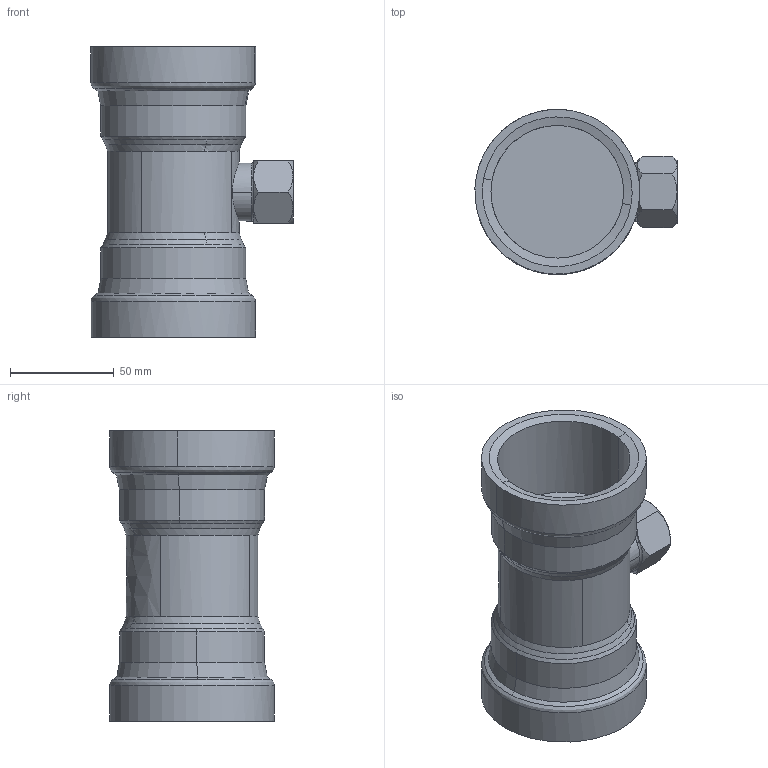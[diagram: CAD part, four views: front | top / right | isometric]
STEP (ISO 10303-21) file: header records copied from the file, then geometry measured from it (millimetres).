
FILE_DESCRIPTION(('STEP AP214'),'1');
FILE_NAME('pim0004510.stp','2015-04-30T06:15:16',('Cad-Pim'),('TransMagic, Inc.'),'TMR11sp0','TransMagic R11',' ');
FILE_SCHEMA(('AUTOMOTIVE_DESIGN'));
Length unit declared in the file: millimetre
Products named in the file (1): pim0004510
Bounding box: 97.46 x 79.5 x 140 mm (x, y, z)
Volume: 288093.2 mm3; surface area: 63108.1 mm2
Topology: 1 solids, 1 shells, 74 faces, 208 edges, 133 vertices
Faces by surface type: bspline 38, cylinder 18, cone 18
Entity records: 3874 total; most frequent: CARTESIAN_POINT 1858, ORIENTED_EDGE 402, EDGE_CURVE 201, DIRECTION 171, VERTEX_POINT 133, EDGE_LOOP 78, STYLED_ITEM 75, PRESENTATION_STYLE_ASSIGNMENT 75
